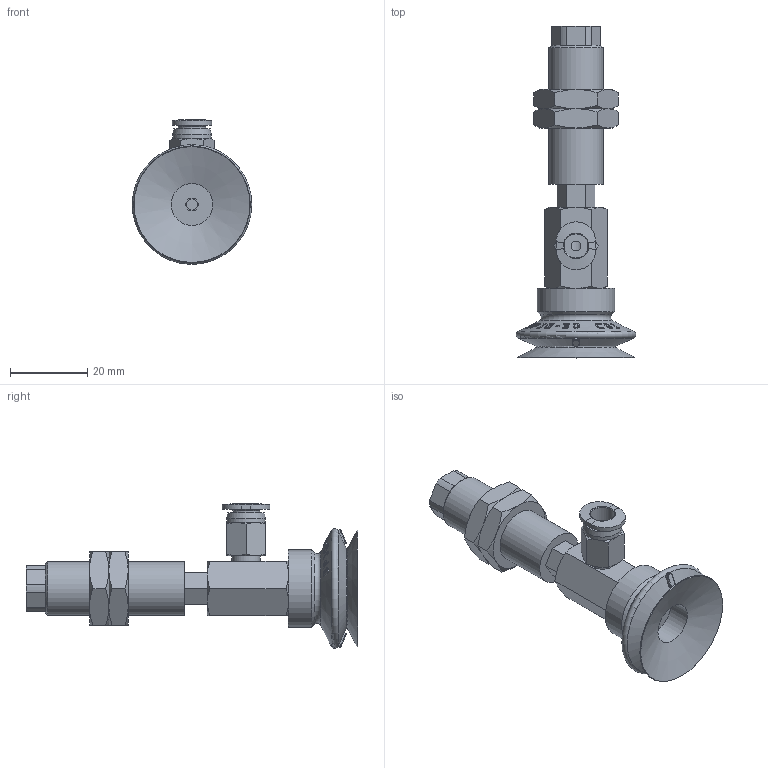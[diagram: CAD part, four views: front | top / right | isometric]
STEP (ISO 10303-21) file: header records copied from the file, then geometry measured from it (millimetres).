
FILE_DESCRIPTION(('STEP AP214'),'1');
FILE_NAME('-O.stp','2026-01-21T07:06:32',(' '),(' '),'Spatial InterOp 3D',' ',' ');
FILE_SCHEMA(('AUTOMOTIVE_DESIGN { 1 0 10303 214 1 1 1 1 }'));
Length unit declared in the file: millimetre
Products named in the file (8): BNABPJYH-30-6-※-O; PC-C_06-M5; BPJG-30-※; Adapter-30-NAPJ; CONNECTOR_H-30-6; NAPJH-30-6-NUT; NAPJYH-30-6-FBODY; NAPJYH-30-6-MBODY
Assembly tree (8 placements, depth 2):
  BNABPJYH-30-6-※-O
    PC-C_06-M5
    BPJG-30-※
    Adapter-30-NAPJ
    CONNECTOR_H-30-6
    NAPJH-30-6-NUT  x2
    NAPJYH-30-6-FBODY
    NAPJYH-30-6-MBODY
Bounding box: 30.99 x 86 x 37.48 mm (x, y, z)
Volume: 17251.4 mm3; surface area: 13544.6 mm2
Topology: 7 solids, 10 shells, 843 faces, 2299 edges, 1504 vertices
Faces by surface type: plane 704, cone 86, cylinder 37, torus 9, bspline 4, revolution 3
Full cylindrical faces by diameter (mm): 3 x2, 4 x2, 4.134 x2, 4.917 x1, 5 x2, 5.8 x1, 6 x1, 7 x1, 7.4 x1, 8.2 x1, 10 x1, 10.8 x1, 11 x1, 13.188 x2, 14 x1, 20 x1
Entity records: 33593 total; most frequent: CARTESIAN_POINT 8397, ORIENTED_EDGE 4392, DIRECTION 2870, EDGE_CURVE 2198, VERTEX_POINT 1469, B_SPLINE_CURVE_WITH_KNOTS 1092, AXIS2_PLACEMENT_3D 961, LINE 945
